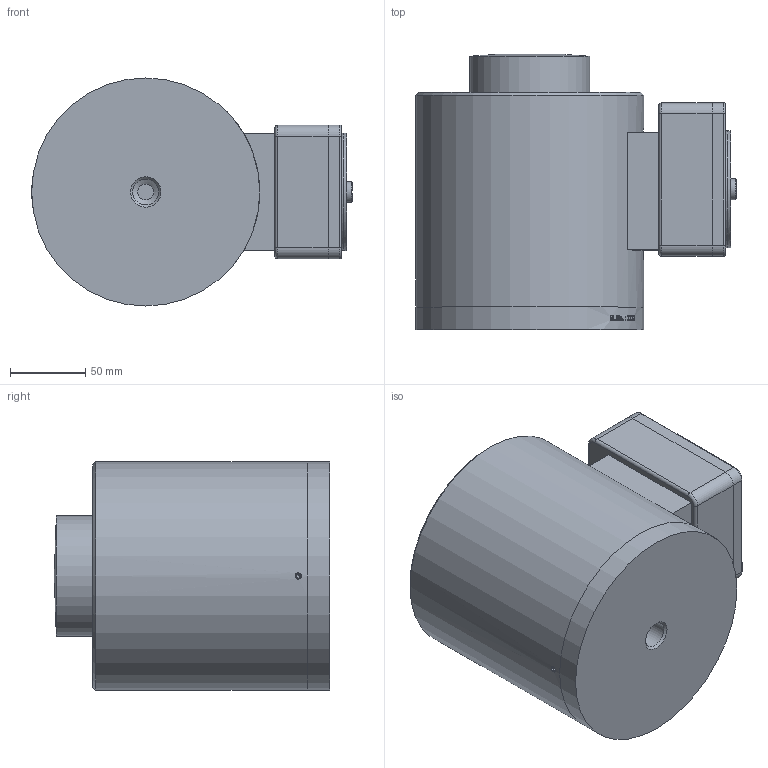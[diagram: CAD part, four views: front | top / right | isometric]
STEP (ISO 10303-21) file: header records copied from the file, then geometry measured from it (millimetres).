
FILE_DESCRIPTION(/* description */ (''),/* implementation_level */ '2;1');
FILE_NAME(/* name */ 'WNI100TC.stp',/* time_stamp */ '2025-01-02T11:02:21Z',/* author */ ('Achacko'),/* organization */ (''),/* preprocessor_version */ 'ST-DEVELOPER v20',/* originating_system */ 'Autodesk Inventor 2025',/* authorisation */ '');
FILE_SCHEMA (('AUTOMOTIVE_DESIGN { 1 0 10303 214 3 1 1 }'));
Length unit declared in the file: inch
Products named in the file (1): Assembly1_Simplify_1
Bounding box: 213.67 x 183.54 x 152 mm (x, y, z)
Volume: 3476111.9 mm3; surface area: 183769.3 mm2
Topology: 1 solids, 1 shells, 362 faces, 874 edges, 557 vertices
Faces by surface type: plane 171, cylinder 102, bspline 62, torus 15, cone 11, sphere 1
Full cylindrical faces by diameter (mm): 2.1 x1, 2.5 x2, 4 x2, 4.1 x2, 5 x1, 8 x3, 8.1 x1, 12 x3, 14 x1, 15.7 x2, 16 x1, 16.7 x2, 17.294 x1, 78 x3, 80 x1, 135 x2, 136.5 x2, 140 x2, 140.5 x2, 141.5 x2, 142 x1, 152 x2
Entity records: 12447 total; most frequent: CARTESIAN_POINT 3619, ORIENTED_EDGE 1746, DIRECTION 1655, EDGE_CURVE 873, AXIS2_PLACEMENT_3D 623, VERTEX_POINT 557, EDGE_LOOP 422, LINE 409
